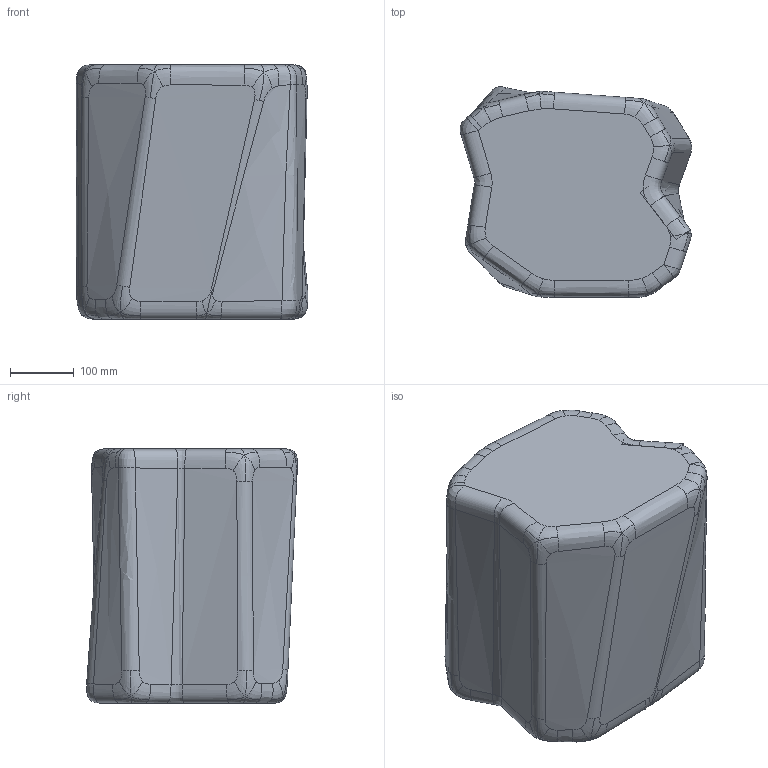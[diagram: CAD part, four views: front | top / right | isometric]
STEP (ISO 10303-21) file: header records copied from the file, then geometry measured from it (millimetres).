
FILE_DESCRIPTION(/* description */ (''),/* implementation_level */ '2;1');
FILE_NAME(/* name */ 'Staffa stool_3D',/* time_stamp */ '2023-09-20T08:11:54+02:00',/* author */ (''),/* organization */ (''),/* preprocessor_version */ 'ST-DEVELOPER v16.5',/* originating_system */ 'Rhino 7.33',/* authorisation */ '');
FILE_SCHEMA (('CONFIG_CONTROL_DESIGN'));
Length unit declared in the file: millimetre
Products named in the file (1): Document
Bounding box: 364.53 x 331.7 x 400.05 mm (x, y, z)
Surface area: 648135.5 mm2 (no closed solid volume)
Topology: 0 solids, 2 shells, 149 faces, 390 edges, 235 vertices
Faces by surface type: bspline 146, plane 3
Entity records: 17281 total; most frequent: CARTESIAN_POINT 14831, ORIENTED_EDGE 757, EDGE_CURVE 384, B_SPLINE_CURVE_WITH_KNOTS 384, VERTEX_POINT 231, ADVANCED_FACE 149, FACE_OUTER_BOUND 149, EDGE_LOOP 149
